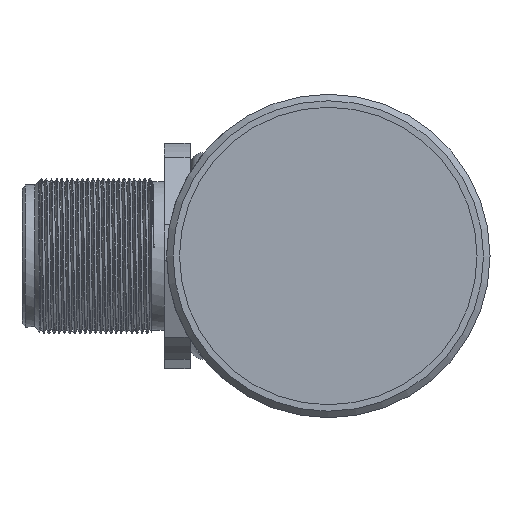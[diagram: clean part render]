
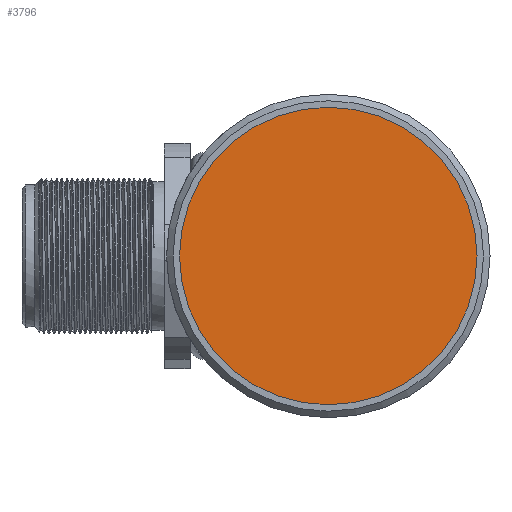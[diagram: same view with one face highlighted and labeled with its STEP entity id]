
A CAD part, left-side view. The second image highlights one B-rep face of the part: STEP entity #3796.
In plain terms, the highlighted planar face has unit normal (-1, 0, 0).
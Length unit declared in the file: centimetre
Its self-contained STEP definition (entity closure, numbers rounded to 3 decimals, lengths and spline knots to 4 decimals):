
#537=CIRCLE('',#4063,1.15);
#727=VERTEX_POINT('',#5283);
#1618=EDGE_CURVE('',#727,#727,#537,.T.);
#2288=ORIENTED_EDGE('',*,*,#1618,.T.);
#3172=EDGE_LOOP('',(#2288));
#3487=FACE_BOUND('',#3172,.T.);
#3796=ADVANCED_FACE('',(#3487),#17395,.T.);
#4063=AXIS2_PLACEMENT_3D('',#5282,#4497,#4498);
#4065=AXIS2_PLACEMENT_3D('',#5286,#4501,$);
#4497=DIRECTION('',(-1.,0.,0.));
#4498=DIRECTION('',(0.,0.,1.15));
#4501=DIRECTION('',(-1.,0.,0.));
#5282=CARTESIAN_POINT('',(0.1,0.,0.));
#5283=CARTESIAN_POINT('',(0.1,0.,1.15));
#5286=CARTESIAN_POINT('',(0.1,0.,0.));
#17395=PLANE('',#4065);
